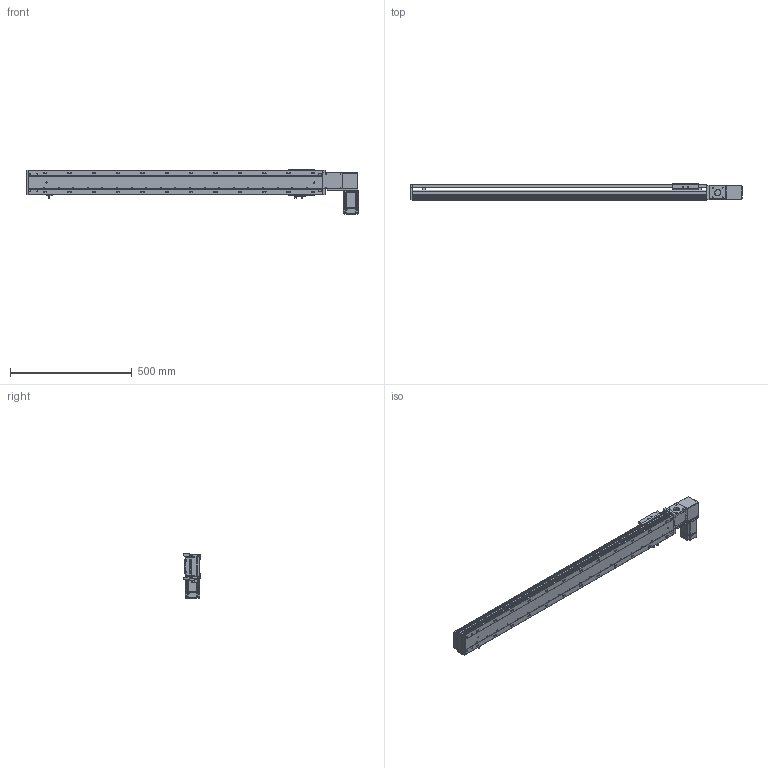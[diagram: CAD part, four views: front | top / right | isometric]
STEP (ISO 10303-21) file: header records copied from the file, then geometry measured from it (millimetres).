
FILE_DESCRIPTION (( 'STEP AP203' ), '1' );
FILE_NAME ('RY100-T-300-LK.SLDASM_1000.step', '2024-04-25T05:37:31', ( '盈信电脑' ), ( '东莞市道滘镇水果街19号' ), 'SwSTEP 2.0', 'SolidWorks 2016', '' );
FILE_SCHEMA (( 'CONFIG_CONTROL_DESIGN' ));
Length unit declared in the file: millimetre
Products named in the file (13): 滅袉蝶18-10; RY100-T-300-LK.SLDASM_1000; RY100-T左右折电机安装板; 1; RY100-T-300-RK倰第奻裔_1000; 覜茼ん672; RY100綴裔啣; RY100-T翋肮祭謫裔啣2; RY100-T肮祭謫翋盓傅釱; RY80-T肮祭謫俋欶; RY100俋离覜茼え; RY100-T-300-RK倰第菁釱_1000; RY100-T肮祭謫臏賑輸
Assembly tree (16 placements, depth 2):
  RY100-T-300-LK.SLDASM_1000
    RY100-T-300-RK倰第菁釱_1000
    RY100-T-300-RK倰第奻裔_1000
    RY100-T肮祭謫臏賑輸
    RY100綴裔啣
    覜茼ん672  x3
    RY100俋离覜茼え
    RY100-T肮祭謫翋盓傅釱
    滅袉蝶18-10  x2
    RY100-T翋肮祭謫裔啣2  x2
    RY80-T肮祭謫俋欶
    RY100-T左右折电机安装板
    1
Bounding box: 1364 x 66 x 182.5 mm (x, y, z)
Volume: 2606205.4 mm3; surface area: 1075180.8 mm2
Topology: 16 solids, 16 shells, 2260 faces, 6352 edges, 4132 vertices
Faces by surface type: plane 1194, cylinder 847, cone 141, bspline 78
Entity records: 73260 total; most frequent: CARTESIAN_POINT 18249, ORIENTED_EDGE 11440, DIRECTION 10788, EDGE_CURVE 5720, VERTEX_POINT 3768, LINE 3620, VECTOR 3620, AXIS2_PLACEMENT_3D 3584
